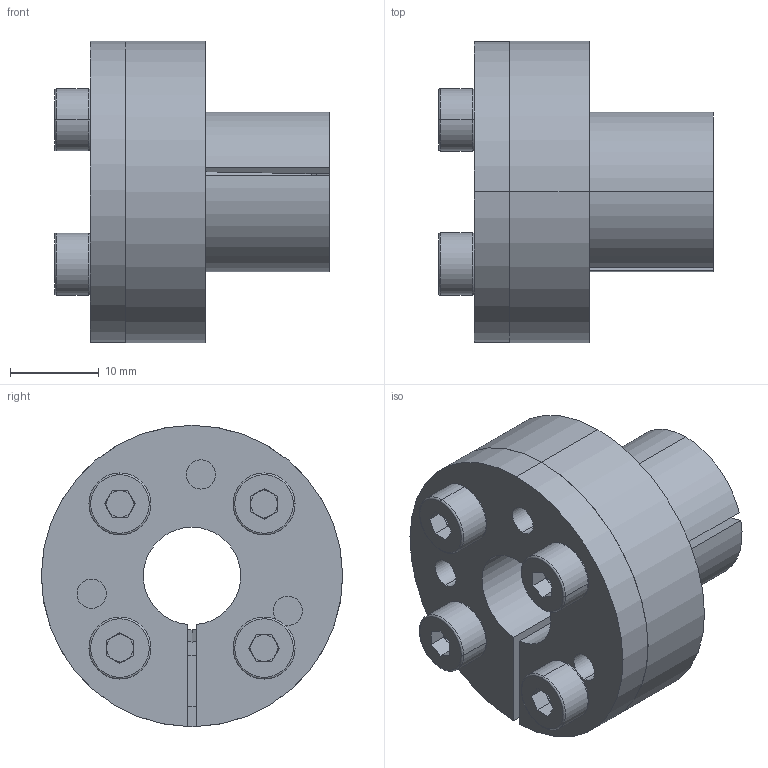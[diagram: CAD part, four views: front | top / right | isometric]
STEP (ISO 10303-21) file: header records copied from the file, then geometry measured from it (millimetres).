
FILE_DESCRIPTION (( 'STEP AP203' ), '1' );
FILE_NAME ('T-11-18.STEP', '2017-10-13T08:14:04', ( 'MYCOM' ), ( '' ), 'SwSTEP 2.0', 'SolidWorks 2015', '' );
FILE_SCHEMA (( 'CONFIG_CONTROL_DESIGN' ));
Length unit declared in the file: millimetre
Products named in the file (1): T-11-18
Bounding box: 31 x 34 x 34 mm (x, y, z)
Surface area: 9040.9 mm2 (no closed solid volume)
Topology: 0 solids, 11 shells, 125 faces, 339 edges, 218 vertices
Faces by surface type: plane 59, cylinder 47, torus 16, cone 3
Entity records: 4047 total; most frequent: DIRECTION 758, CARTESIAN_POINT 701, ORIENTED_EDGE 592, EDGE_CURVE 339, AXIS2_PLACEMENT_3D 297, VERTEX_POINT 218, CIRCLE 171, LINE 164
